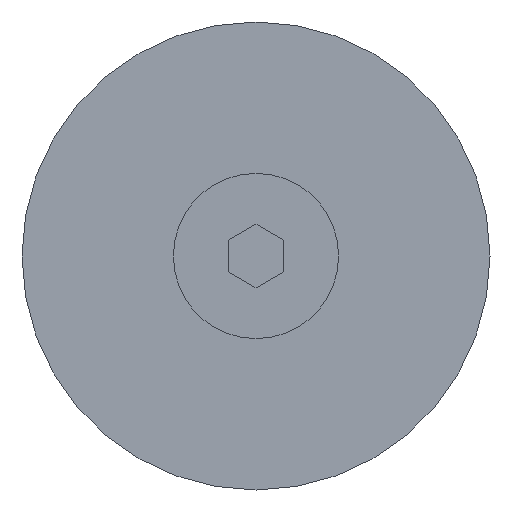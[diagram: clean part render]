
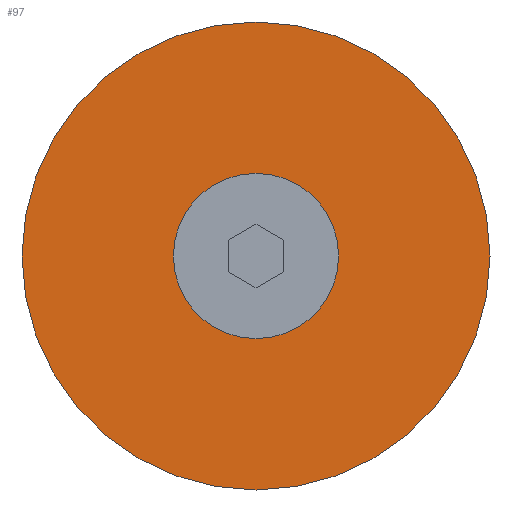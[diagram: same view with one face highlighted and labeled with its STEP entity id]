
A CAD part, front view. The second image highlights one B-rep face of the part: STEP entity #97.
In plain terms, the highlighted planar face has unit normal (0, -1, 0).
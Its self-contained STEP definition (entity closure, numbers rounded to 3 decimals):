
#97=ADVANCED_FACE('',(#166,#167),#168,.F.);
#166=FACE_OUTER_BOUND('',#259,.T.);
#167=FACE_BOUND('',#260,.T.);
#168=PLANE('',#261);
#259=EDGE_LOOP('',(#471,#472));
#260=EDGE_LOOP('',(#473,#474));
#261=AXIS2_PLACEMENT_3D('',#475,#476,#477);
#471=ORIENTED_EDGE('',*,*,#640,.T.);
#472=ORIENTED_EDGE('',*,*,#686,.T.);
#473=ORIENTED_EDGE('',*,*,#634,.F.);
#474=ORIENTED_EDGE('',*,*,#687,.F.);
#475=CARTESIAN_POINT('',(-17.,-9.0,0.0));
#476=DIRECTION('',(0.0,1.0,0.0));
#477=DIRECTION('',(1.0,0.0,-0.0));
#634=EDGE_CURVE('',#738,#739,#740,.T.);
#640=EDGE_CURVE('',#751,#749,#752,.T.);
#686=EDGE_CURVE('',#749,#751,#826,.T.);
#687=EDGE_CURVE('',#739,#738,#827,.T.);
#738=VERTEX_POINT('',#900);
#739=VERTEX_POINT('',#901);
#740=CIRCLE('',#902,6.0);
#749=VERTEX_POINT('',#913);
#751=VERTEX_POINT('',#916);
#752=CIRCLE('',#917,17.0);
#826=CIRCLE('',#1024,17.0);
#827=CIRCLE('',#1025,6.0);
#900=CARTESIAN_POINT('',(0.,-9.0,-6.0));
#901=CARTESIAN_POINT('',(0.,-9.0,6.0));
#902=AXIS2_PLACEMENT_3D('',#1124,#1125,#1126);
#913=CARTESIAN_POINT('',(0.,-9.0,17.0));
#916=CARTESIAN_POINT('',(0.,-9.0,-17.0));
#917=AXIS2_PLACEMENT_3D('',#1136,#1137,#1138);
#1024=AXIS2_PLACEMENT_3D('',#1208,#1209,#1210);
#1025=AXIS2_PLACEMENT_3D('',#1211,#1212,#1213);
#1124=CARTESIAN_POINT('',(0.,-9.0,0.0));
#1125=DIRECTION('',(0.0,-1.0,0.0));
#1126=DIRECTION('',(0.0,0.0,-1.0));
#1136=CARTESIAN_POINT('',(0.,-9.0,0.0));
#1137=DIRECTION('',(0.0,-1.0,0.0));
#1138=DIRECTION('',(0.0,0.0,-1.0));
#1208=CARTESIAN_POINT('',(0.,-9.0,0.0));
#1209=DIRECTION('',(0.0,-1.0,0.0));
#1210=DIRECTION('',(0.0,0.0,-1.0));
#1211=CARTESIAN_POINT('',(0.,-9.0,0.0));
#1212=DIRECTION('',(0.0,-1.0,0.0));
#1213=DIRECTION('',(0.0,0.0,-1.0));
